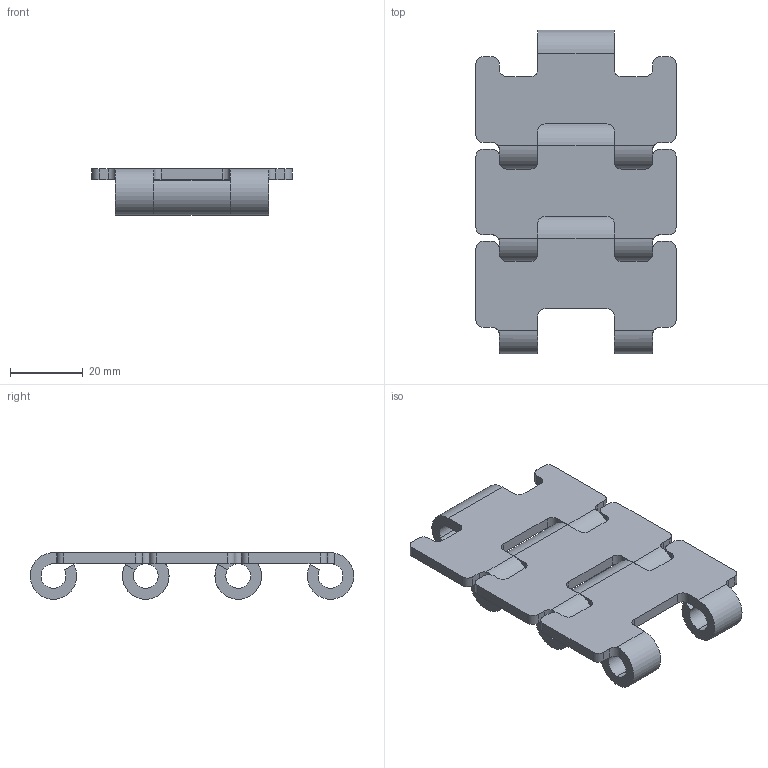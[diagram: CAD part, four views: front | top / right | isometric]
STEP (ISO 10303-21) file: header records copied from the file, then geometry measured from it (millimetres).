
FILE_DESCRIPTION(('STEP AP214'),'1');
FILE_NAME('P10070100_01','2017-04-19T13:08:38',('dentellad'),(' '),'Spatial InterOp 3D',' ',' ');
FILE_SCHEMA(('automotive_design'));
Length unit declared in the file: millimetre
Products named in the file (3): 1; 2; 3
Bounding box: 55 x 89 x 12.8 mm (x, y, z)
Volume: 19742.2 mm3; surface area: 16190.6 mm2
Topology: 3 solids, 3 shells, 144 faces, 432 edges, 294 vertices
Faces by surface type: cylinder 78, plane 66
Entity records: 8276 total; most frequent: CARTESIAN_POINT 933, DIRECTION 882, ORIENTED_EDGE 864, STYLED_ITEM 561, PRESENTATION_STYLE_ASSIGNMENT 561, COLOUR_RGB 561, EDGE_CURVE 432, CURVE_STYLE 414
